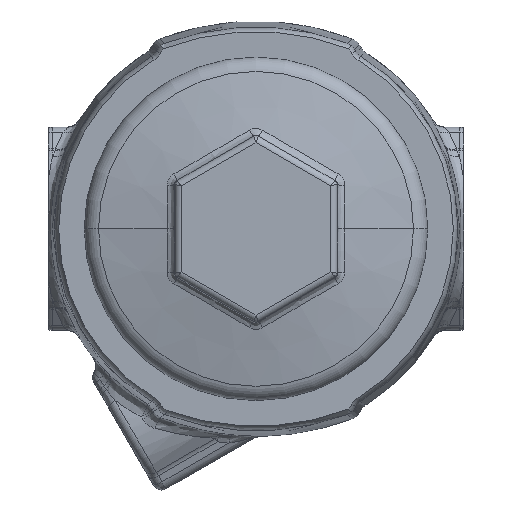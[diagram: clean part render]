
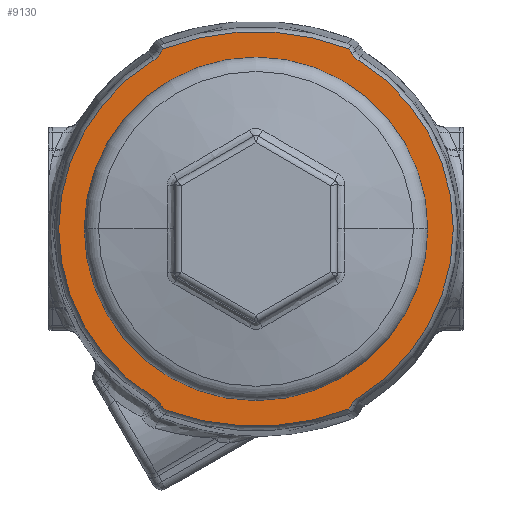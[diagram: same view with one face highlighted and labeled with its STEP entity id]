
A CAD part, front view. The second image highlights one B-rep face of the part: STEP entity #9130.
In plain terms, the highlighted planar face has unit normal (0, -1, 0).
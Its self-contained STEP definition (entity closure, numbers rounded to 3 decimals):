
#327=CARTESIAN_POINT('',(-22.569,-55.,37.347));
#328=CARTESIAN_POINT('',(-22.375,-55.,37.464));
#329=CARTESIAN_POINT('',(-22.013,-55.,37.727));
#330=CARTESIAN_POINT('',(-21.539,-55.,38.211));
#331=CARTESIAN_POINT('',(-21.284,-55.,38.578));
#332=CARTESIAN_POINT('',(-21.171,-55.,38.775));
#339=CARTESIAN_POINT('',(0.,-55.,0.));
#340=DIRECTION('',(0.,-1.,0.));
#341=DIRECTION('',(-1.,0.,0.));
#342=AXIS2_PLACEMENT_3D('',#339,#340,#341);
#344=CARTESIAN_POINT('',(0.,-55.,0.));
#345=DIRECTION('',(0.,-1.,0.));
#346=DIRECTION('',(1.,0.,0.));
#347=AXIS2_PLACEMENT_3D('',#344,#345,#346);
#349=CARTESIAN_POINT('',(0.,-55.,0.));
#350=DIRECTION('',(0.,1.,0.));
#351=DIRECTION('',(0.517,0.,0.856));
#352=AXIS2_PLACEMENT_3D('',#349,#350,#351);
#359=CARTESIAN_POINT('',(21.171,-55.,38.775));
#360=CARTESIAN_POINT('',(21.284,-55.,38.578));
#361=CARTESIAN_POINT('',(21.539,-55.,38.211));
#362=CARTESIAN_POINT('',(22.013,-55.,37.727));
#363=CARTESIAN_POINT('',(22.375,-55.,37.464));
#364=CARTESIAN_POINT('',(22.569,-55.,37.347));
#371=CARTESIAN_POINT('',(20.554,-55.,39.847));
#372=CARTESIAN_POINT('',(20.76,-55.,39.49));
#373=CARTESIAN_POINT('',(20.966,-55.,39.132));
#374=CARTESIAN_POINT('',(21.171,-55.,38.775));
#376=CARTESIAN_POINT('',(0.,-55.,-14.));
#377=DIRECTION('',(0.,1.,0.));
#378=DIRECTION('',(-0.357,0.,0.934));
#379=AXIS2_PLACEMENT_3D('',#376,#377,#378);
#388=CARTESIAN_POINT('',(-21.171,-55.,38.775));
#389=CARTESIAN_POINT('',(-20.966,-55.,39.132));
#390=CARTESIAN_POINT('',(-20.76,-55.,39.49));
#391=CARTESIAN_POINT('',(-20.554,-55.,39.847));
#2238=CARTESIAN_POINT('',(-21.186,-55.,-38.704));
#2239=CARTESIAN_POINT('',(-21.298,-55.,-38.521));
#2240=CARTESIAN_POINT('',(-21.547,-55.,-38.18));
#2241=CARTESIAN_POINT('',(-22.002,-55.,-37.728));
#2242=CARTESIAN_POINT('',(-22.345,-55.,-37.482));
#2243=CARTESIAN_POINT('',(-22.529,-55.,-37.371));
#2250=CARTESIAN_POINT('',(-20.896,-55.,-39.176));
#2251=CARTESIAN_POINT('',(-20.992,-55.,-39.019));
#2252=CARTESIAN_POINT('',(-21.089,-55.,-38.861));
#2253=CARTESIAN_POINT('',(-21.186,-55.,-38.704));
#2260=CARTESIAN_POINT('',(-19.669,-55.,-40.177));
#2261=CARTESIAN_POINT('',(-19.842,-55.,-40.114));
#2262=CARTESIAN_POINT('',(-20.162,-55.,-39.955));
#2263=CARTESIAN_POINT('',(-20.579,-55.,-39.614));
#2264=CARTESIAN_POINT('',(-20.8,-55.,-39.332));
#2265=CARTESIAN_POINT('',(-20.896,-55.,-39.176));
#2288=CARTESIAN_POINT('',(0.,-55.,14.));
#2289=DIRECTION('',(0.,1.,0.));
#2290=DIRECTION('',(0.357,0.,-0.934));
#2291=AXIS2_PLACEMENT_3D('',#2288,#2289,#2290);
#2293=CARTESIAN_POINT('',(21.171,-55.,-38.775));
#2294=CARTESIAN_POINT('',(20.966,-55.,-39.132));
#2295=CARTESIAN_POINT('',(20.76,-55.,-39.49));
#2296=CARTESIAN_POINT('',(20.554,-55.,-39.847));
#2310=CARTESIAN_POINT('',(22.569,-55.,-37.347));
#2311=CARTESIAN_POINT('',(22.375,-55.,-37.464));
#2312=CARTESIAN_POINT('',(22.013,-55.,-37.727));
#2313=CARTESIAN_POINT('',(21.539,-55.,-38.211));
#2314=CARTESIAN_POINT('',(21.284,-55.,-38.578));
#2315=CARTESIAN_POINT('',(21.171,-55.,-38.775));
#6479=CARTESIAN_POINT('',(0.,-55.,0.));
#6480=DIRECTION('',(0.,1.,0.));
#6481=DIRECTION('',(-0.516,0.,-0.856));
#6482=AXIS2_PLACEMENT_3D('',#6479,#6480,#6481);
#7609=CARTESIAN_POINT('',(22.569,-55.,37.347));
#7610=CARTESIAN_POINT('',(22.569,-55.,-37.347));
#7611=VERTEX_POINT('',#7609);
#7612=VERTEX_POINT('',#7610);
#8426=CARTESIAN_POINT('',(-22.529,-55.,-37.371));
#8427=CARTESIAN_POINT('',(-22.569,-55.,37.347));
#8428=VERTEX_POINT('',#8426);
#8429=VERTEX_POINT('',#8427);
#8430=VERTEX_POINT('',#332);
#8431=VERTEX_POINT('',#391);
#8432=VERTEX_POINT('',#2238);
#8433=VERTEX_POINT('',#2250);
#8434=CARTESIAN_POINT('',(20.554,-55.,-39.847));
#8435=CARTESIAN_POINT('',(-19.669,-55.,-40.177));
#8436=VERTEX_POINT('',#8434);
#8437=VERTEX_POINT('',#8435);
#8438=VERTEX_POINT('',#2293);
#8439=VERTEX_POINT('',#359);
#8440=VERTEX_POINT('',#371);
#8537=CARTESIAN_POINT('',(-37.5,-55.,0.));
#8538=CARTESIAN_POINT('',(37.5,-55.,0.));
#8539=VERTEX_POINT('',#8537);
#8540=VERTEX_POINT('',#8538);
#9092=CARTESIAN_POINT('',(0.,-55.,0.));
#9093=DIRECTION('',(0.,-1.,0.));
#9094=DIRECTION('',(-1.,0.,0.));
#9095=AXIS2_PLACEMENT_3D('',#9092,#9093,#9094);
#9096=PLANE('',#9095);
#9098=ORIENTED_EDGE('',*,*,#9097,.T.);
#9100=ORIENTED_EDGE('',*,*,#9099,.T.);
#9102=ORIENTED_EDGE('',*,*,#9101,.T.);
#9104=ORIENTED_EDGE('',*,*,#9103,.T.);
#9106=ORIENTED_EDGE('',*,*,#9105,.T.);
#9108=ORIENTED_EDGE('',*,*,#9107,.T.);
#9110=ORIENTED_EDGE('',*,*,#9109,.T.);
#9112=ORIENTED_EDGE('',*,*,#9111,.T.);
#9113=ORIENTED_EDGE('',*,*,#9075,.T.);
#9115=ORIENTED_EDGE('',*,*,#9114,.T.);
#9117=ORIENTED_EDGE('',*,*,#9116,.T.);
#9119=ORIENTED_EDGE('',*,*,#9118,.T.);
#9121=ORIENTED_EDGE('',*,*,#9120,.T.);
#9122=EDGE_LOOP('',(#9098,#9100,#9102,#9104,#9106,#9108,#9110,#9112,#9113,#9115,
#9117,#9119,#9121));
#9123=FACE_OUTER_BOUND('',#9122,.F.);
#9125=ORIENTED_EDGE('',*,*,#9124,.T.);
#9127=ORIENTED_EDGE('',*,*,#9126,.T.);
#9128=EDGE_LOOP('',(#9125,#9127));
#9129=FACE_BOUND('',#9128,.F.);
#333=B_SPLINE_CURVE_WITH_KNOTS('',3,(#327,#328,#329,#330,#331,#332),
.UNSPECIFIED.,.F.,.F.,(4,1,1,4),(0.,0.333,0.667,1.),
.UNSPECIFIED.);
#343=CIRCLE('',#342,37.5);
#348=CIRCLE('',#347,37.5);
#353=CIRCLE('',#352,43.637);
#365=B_SPLINE_CURVE_WITH_KNOTS('',3,(#359,#360,#361,#362,#363,#364),
.UNSPECIFIED.,.F.,.F.,(4,1,1,4),(0.,0.333,0.667,1.),
.UNSPECIFIED.);
#375=B_SPLINE_CURVE_WITH_KNOTS('',3,(#371,#372,#373,#374),.UNSPECIFIED.,.F.,.F.,
(4,4),(0.,1.),.UNSPECIFIED.);
#380=CIRCLE('',#379,57.637);
#392=B_SPLINE_CURVE_WITH_KNOTS('',3,(#388,#389,#390,#391),.UNSPECIFIED.,.F.,.F.,
(4,4),(0.,1.),.UNSPECIFIED.);
#2244=B_SPLINE_CURVE_WITH_KNOTS('',3,(#2238,#2239,#2240,#2241,#2242,#2243),
.UNSPECIFIED.,.F.,.F.,(4,1,1,4),(0.,0.333,0.667,1.),
.UNSPECIFIED.);
#2254=B_SPLINE_CURVE_WITH_KNOTS('',3,(#2250,#2251,#2252,#2253),.UNSPECIFIED.,
.F.,.F.,(4,4),(0.,1.),.UNSPECIFIED.);
#2266=B_SPLINE_CURVE_WITH_KNOTS('',3,(#2260,#2261,#2262,#2263,#2264,#2265),
.UNSPECIFIED.,.F.,.F.,(4,1,1,4),(0.,0.333,0.667,1.),
.UNSPECIFIED.);
#2292=CIRCLE('',#2291,57.637);
#2297=B_SPLINE_CURVE_WITH_KNOTS('',3,(#2293,#2294,#2295,#2296),.UNSPECIFIED.,
.F.,.F.,(4,4),(0.,1.),.UNSPECIFIED.);
#2316=B_SPLINE_CURVE_WITH_KNOTS('',3,(#2310,#2311,#2312,#2313,#2314,#2315),
.UNSPECIFIED.,.F.,.F.,(4,1,1,4),(0.,0.333,0.667,1.),
.UNSPECIFIED.);
#6483=CIRCLE('',#6482,43.637);
#9075=EDGE_CURVE('',#8429,#8430,#333,.T.);
#9097=EDGE_CURVE('',#7611,#7612,#353,.T.);
#9099=EDGE_CURVE('',#7612,#8438,#2316,.T.);
#9101=EDGE_CURVE('',#8438,#8436,#2297,.T.);
#9103=EDGE_CURVE('',#8436,#8437,#2292,.T.);
#9105=EDGE_CURVE('',#8437,#8433,#2266,.T.);
#9107=EDGE_CURVE('',#8433,#8432,#2254,.T.);
#9109=EDGE_CURVE('',#8432,#8428,#2244,.T.);
#9111=EDGE_CURVE('',#8428,#8429,#6483,.T.);
#9114=EDGE_CURVE('',#8430,#8431,#392,.T.);
#9116=EDGE_CURVE('',#8431,#8440,#380,.T.);
#9118=EDGE_CURVE('',#8440,#8439,#375,.T.);
#9120=EDGE_CURVE('',#8439,#7611,#365,.T.);
#9124=EDGE_CURVE('',#8539,#8540,#343,.T.);
#9126=EDGE_CURVE('',#8540,#8539,#348,.T.);
#9130=ADVANCED_FACE('',(#9123,#9129),#9096,.T.);
